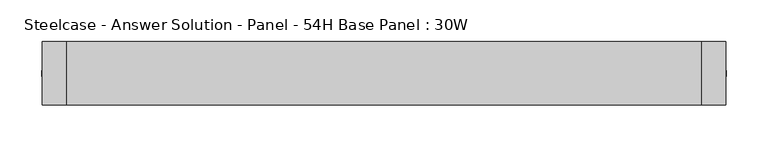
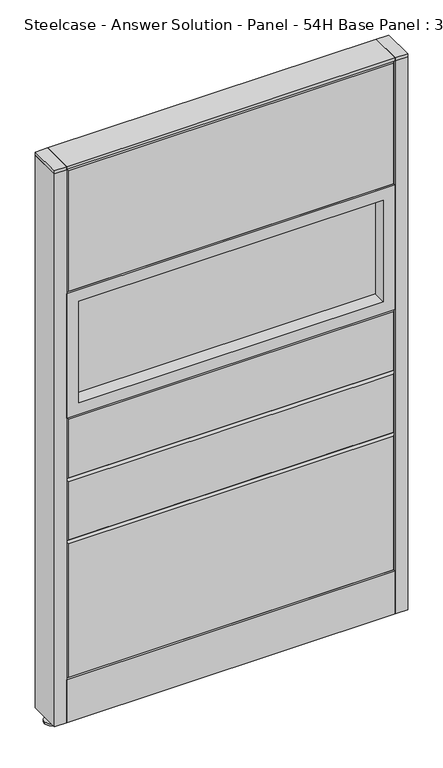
"""IFC4 building model written with IfcOpenShell, lengths in millimetres: furniture geometry, Steelcase - Answer Solution - Panel - 54H Base Panel : 30W."""

from ifc_helpers import new_model, si_unit, point, frame, frame_2d, origin, place, context, project, spatial, polyline, circle_curve, trimmed, segment, composite_curve, outline, extrude, faceted_brep, source, transform, mapped, element, save


def steelcase_answer_solution_panel_54h_base_panel_30w_b61ff952(model_context):
    return source(origin(), model_context, "Body", "SolidModel", [
        extrude(outline(composite_curve([segment(trimmed(circle_curve(frame_2d((395.224, 0.0320214)), 5.08), [point((400.304, 0.0320214))], [point((390.144, 0.0320214))], False, "CARTESIAN"), True, "CONTINUOUS"), segment(trimmed(circle_curve(frame_2d((395.224, 0.0320214)), 5.08), [point((390.144, 0.0320214))], [point((400.304, 0.0320214))], False, "CARTESIAN"), True, "CONTINUOUS")], self_intersect=False)), frame((0.0, 0.0, 5.0799671), z_axis=(0.0, 0.0, 1.0), x_axis=(1.0, 0.0, 0.0)), (0.0, 0.0, 1.0), 10.414),
        extrude(outline(composite_curve([segment(trimmed(circle_curve(frame_2d((395.224, 0.0320214)), 15.24), [point((410.464, 0.0320214))], [point((379.984, 0.0320214))], False, "CARTESIAN"), True, "CONTINUOUS"), segment(trimmed(circle_curve(frame_2d((395.224, 0.0320214)), 15.24), [point((379.984, 0.0320214))], [point((410.464, 0.0320214))], False, "CARTESIAN"), True, "CONTINUOUS")], self_intersect=False)), frame((0.0, 0.0, -3.29e-05), z_axis=(0.0, 0.0, 1.0), x_axis=(1.0, 0.0, 0.0)), (0.0, 0.0, 1.0), 5.08),
        extrude(outline(polyline([(409.575, 38.1320408), (409.575, -38.0679592), (381.0, -38.0679592), (381.0, 38.1320408), (409.575, 38.1320408)])), frame((0.0, 0.0, 1370.6348), z_axis=(0.0, 0.0, 1.0), x_axis=(1.0, 0.0, 0.0)), (0.0, 0.0, 1.0), 7.3151671),
        extrude(outline(polyline([(409.575, 38.1320408), (409.575, -38.0679592), (381.0, -38.0679592), (381.0, 38.1320408), (409.575, 38.1320408)])), frame((0.0, 0.0, 15.4939671), z_axis=(0.0, 0.0, 1.0), x_axis=(1.0, 0.0, 0.0)), (0.0, 0.0, 1.0), 1355.1408329),
        extrude(outline(composite_curve([segment(trimmed(circle_curve(frame_2d((-395.224, 0.0320214)), 5.08), [point((-400.304, 0.0320214))], [point((-390.144, 0.0320214))], False, "CARTESIAN"), True, "CONTINUOUS"), segment(trimmed(circle_curve(frame_2d((-395.224, 0.0320214)), 5.08), [point((-390.144, 0.0320214))], [point((-400.304, 0.0320214))], False, "CARTESIAN"), True, "CONTINUOUS")], self_intersect=False)), frame((0.0, 0.0, 5.0799671), z_axis=(0.0, 0.0, 1.0), x_axis=(1.0, 0.0, 0.0)), (0.0, 0.0, 1.0), 10.414),
        extrude(outline(composite_curve([segment(trimmed(circle_curve(frame_2d((-395.224, 0.0320214)), 15.24), [point((-410.464, 0.0320214))], [point((-379.984, 0.0320214))], False, "CARTESIAN"), True, "CONTINUOUS"), segment(trimmed(circle_curve(frame_2d((-395.224, 0.0320214)), 15.24), [point((-379.984, 0.0320214))], [point((-410.464, 0.0320214))], False, "CARTESIAN"), True, "CONTINUOUS")], self_intersect=False)), frame((0.0, 0.0, -3.29e-05), z_axis=(0.0, 0.0, 1.0), x_axis=(1.0, 0.0, 0.0)), (0.0, 0.0, 1.0), 5.08),
        extrude(outline(polyline([(-409.575, 38.1320408), (-381.0, 38.1320408), (-381.0, -38.0679592), (-409.575, -38.0679592), (-409.575, 38.1320408)])), frame((0.0, 0.0, 1370.6348), z_axis=(0.0, 0.0, 1.0), x_axis=(1.0, 0.0, 0.0)), (0.0, 0.0, 1.0), 7.3151671),
        extrude(outline(polyline([(-409.575, 38.1320408), (-381.0, 38.1320408), (-381.0, -38.0679592), (-409.575, -38.0679592), (-409.575, 38.1320408)])), frame((0.0, 0.0, 15.4939671), z_axis=(0.0, 0.0, 1.0), x_axis=(1.0, 0.0, 0.0)), (0.0, 0.0, 1.0), 1355.1408329),
        faceted_brep([(-376.174, 38.1635011, 1366.774), (376.174, 38.1635011, 1366.774), (376.174, 38.1635011, 1071.626), (-376.174, 38.1635011, 1071.626), (-381.0, 33.3375011, 1371.6), (-381.0, 33.3375011, 1066.8), (381.0, 33.3375011, 1066.8), (381.0, 33.3375011, 1371.6)], [[[0, 1, 2, 3]], [[4, 5, 6, 7]], [[4, 7, 1, 0]], [[7, 6, 2, 1]], [[6, 5, 3, 2]], [[5, 4, 0, 3]]]),
        extrude(outline(polyline([(-353.06, 6.346049), (353.06, 6.346049), (353.06, -6.353951), (-353.06, -6.353951), (-353.06, 6.346049)])), frame((0.0, 0.0, 789.94), z_axis=(0.0, 0.0, 1.0), x_axis=(1.0, 0.0, 0.0)), (0.0, 0.0, 1.0), 248.92),
        extrude(outline(polyline([(1066.8, -381.0), (762.0, -381.0), (762.0, 381.0), (1066.8, 381.0), (1066.8, -381.0)]), holes=[polyline([(1038.86, -353.06), (1038.86, 353.06), (789.94, 353.06), (789.94, -353.06), (1038.86, -353.06)])]), frame((0.0, -38.103951, 0.0), z_axis=(0.0, 1.0, 0.0), x_axis=(0.0, 0.0, 1.0)), (0.0, 0.0, 1.0), 76.2),
        faceted_brep([(-376.174, 38.1635011, 757.174), (376.174, 38.1635011, 757.174), (376.174, 38.1635011, 614.426), (-376.174, 38.1635011, 614.426), (-381.0, 33.3375011, 762.0), (-381.0, 33.3375011, 609.6), (381.0, 33.3375011, 609.6), (381.0, 33.3375011, 762.0)], [[[0, 1, 2, 3]], [[4, 5, 6, 7]], [[4, 7, 1, 0]], [[7, 6, 2, 1]], [[6, 5, 3, 2]], [[5, 4, 0, 3]]]),
        faceted_brep([(-376.174, 38.1635011, 604.774), (376.174, 38.1635011, 604.774), (376.174, 38.1635011, 462.026), (-376.174, 38.1635011, 462.026), (-381.0, 33.3375011, 609.6), (-381.0, 33.3375011, 457.2), (381.0, 33.3375011, 457.2), (381.0, 33.3375011, 609.6)], [[[0, 1, 2, 3]], [[4, 5, 6, 7]], [[4, 7, 1, 0]], [[7, 6, 2, 1]], [[6, 5, 3, 2]], [[5, 4, 0, 3]]]),
        faceted_brep([(-376.174, 38.1635011, 452.374), (376.174, 38.1635011, 452.374), (376.174, 38.1635011, 125.476), (-376.174, 38.1635011, 125.476), (-381.0, 33.3375011, 457.2), (-381.0, 33.3375011, 120.65), (381.0, 33.3375011, 120.65), (381.0, 33.3375011, 457.2)], [[[0, 1, 2, 3]], [[4, 5, 6, 7]], [[4, 7, 1, 0]], [[7, 6, 2, 1]], [[6, 5, 3, 2]], [[5, 4, 0, 3]]]),
        faceted_brep([(376.174, -38.1635011, 1366.774), (-376.174, -38.1635011, 1366.774), (-376.174, -38.1635011, 1071.626), (376.174, -38.1635011, 1071.626), (381.0, -33.3375011, 1371.6), (381.0, -33.3375011, 1066.8), (-381.0, -33.3375011, 1066.8), (-381.0, -33.3375011, 1371.6)], [[[0, 1, 2, 3]], [[4, 5, 6, 7]], [[4, 7, 1, 0]], [[7, 6, 2, 1]], [[6, 5, 3, 2]], [[5, 4, 0, 3]]]),
        extrude(outline(polyline([(353.06, -6.346049), (-353.06, -6.346049), (-353.06, 6.353951), (353.06, 6.353951), (353.06, -6.346049)])), frame((0.0, 0.0, 789.94), z_axis=(0.0, 0.0, 1.0), x_axis=(1.0, 0.0, 0.0)), (0.0, 0.0, 1.0), 248.92),
        extrude(outline(polyline([(1066.8, 381.0), (1066.8, -381.0), (762.0, -381.0), (762.0, 381.0), (1066.8, 381.0)]), holes=[polyline([(1038.86, 353.06), (789.94, 353.06), (789.94, -353.06), (1038.86, -353.06), (1038.86, 353.06)])]), frame((0.0, -38.096049, 0.0), z_axis=(0.0, 1.0, 0.0), x_axis=(0.0, 0.0, 1.0)), (0.0, 0.0, 1.0), 76.2),
        faceted_brep([(376.174, -38.1635011, 757.174), (-376.174, -38.1635011, 757.174), (-376.174, -38.1635011, 614.426), (376.174, -38.1635011, 614.426), (381.0, -33.3375011, 762.0), (381.0, -33.3375011, 609.6), (-381.0, -33.3375011, 609.6), (-381.0, -33.3375011, 762.0)], [[[0, 1, 2, 3]], [[4, 5, 6, 7]], [[4, 7, 1, 0]], [[7, 6, 2, 1]], [[6, 5, 3, 2]], [[5, 4, 0, 3]]]),
        faceted_brep([(376.174, -38.1635011, 604.774), (-376.174, -38.1635011, 604.774), (-376.174, -38.1635011, 462.026), (376.174, -38.1635011, 462.026), (381.0, -33.3375011, 609.6), (381.0, -33.3375011, 457.2), (-381.0, -33.3375011, 457.2), (-381.0, -33.3375011, 609.6)], [[[0, 1, 2, 3]], [[4, 5, 6, 7]], [[4, 7, 1, 0]], [[7, 6, 2, 1]], [[6, 5, 3, 2]], [[5, 4, 0, 3]]]),
        faceted_brep([(376.174, -38.1635011, 452.374), (-376.174, -38.1635011, 452.374), (-376.174, -38.1635011, 125.476), (376.174, -38.1635011, 125.476), (381.0, -33.3375011, 457.2), (381.0, -33.3375011, 120.65), (-381.0, -33.3375011, 120.65), (-381.0, -33.3375011, 457.2)], [[[0, 1, 2, 3]], [[4, 5, 6, 7]], [[4, 7, 1, 0]], [[7, 6, 2, 1]], [[6, 5, 3, 2]], [[5, 4, 0, 3]]]),
        extrude(outline(polyline([(381.0, 38.1000194), (381.0, -38.1000194), (-381.0, -38.1000194), (-381.0, 38.1000194), (381.0, 38.1000194)])), frame((0.0, 0.0, 1371.6), z_axis=(0.0, 0.0, 1.0), x_axis=(1.0, 0.0, 0.0)), (0.0, 0.0, 1.0), 6.35),
        extrude(outline(polyline([(25.4000011, 119.8575157), (25.4000011, 120.65), (38.1000194, 120.65), (38.1000194, 15.494), (37.3075215, 15.494), (37.3075215, 119.8575157), (25.4000011, 119.8575157)])), frame((-381.0, 0.0, 0.0), z_axis=(1.0, 0.0, 0.0), x_axis=(0.0, 1.0, 0.0)), (0.0, 0.0, 1.0), 762.0),
        extrude(outline(polyline([(-25.4000011, 119.8575157), (-37.3075215, 119.8575157), (-37.3075215, 15.494), (-38.1000194, 15.494), (-38.1000194, 120.65), (-25.4000011, 120.65), (-25.4000011, 119.8575157)])), frame((-381.0, 0.0, 0.0), z_axis=(1.0, 0.0, 0.0), x_axis=(0.0, 1.0, 0.0)), (0.0, 0.0, 1.0), 762.0),
    ])


if __name__ == "__main__":
    model = new_model("IFC4")
    model_context = context("Model", 3, world=origin())
    ifc_project = project(units=[si_unit("LENGTHUNIT", "METRE", prefix="MILLI")], contexts=[model_context])
    site = spatial("IfcSite", under=ifc_project)
    building = spatial("IfcBuilding", under=site)
    placement = place(None, origin())
    steelcase_answer_solution_panel_54h_base_panel_30w_shape = steelcase_answer_solution_panel_54h_base_panel_30w_b61ff952(model_context)
    element("IfcFurniture", 1, ObjectType="Steelcase - Answer Solution - Panel - 54H Base Panel : 30W", at=placement, inside=building, context=model_context, shape_type="MappedRepresentation", body=[
        mapped(steelcase_answer_solution_panel_54h_base_panel_30w_shape, transform((0.0, 0.0, 0.0), x_axis=(1.0, 0.0, 0.0), y_axis=(0.0, 1.0, 0.0), z_axis=(0.0, 0.0, 1.0))),
    ])
    save(model, "model.ifc")
